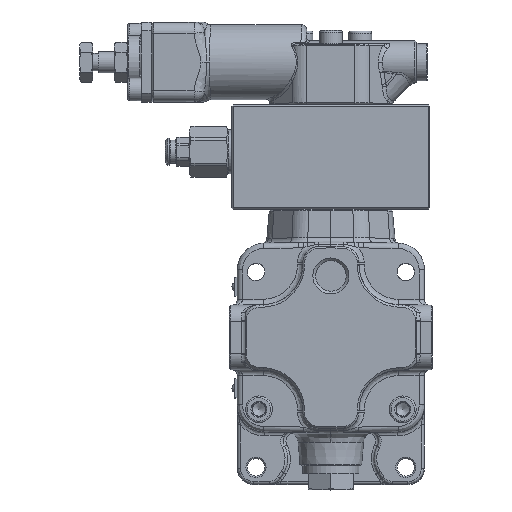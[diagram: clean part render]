
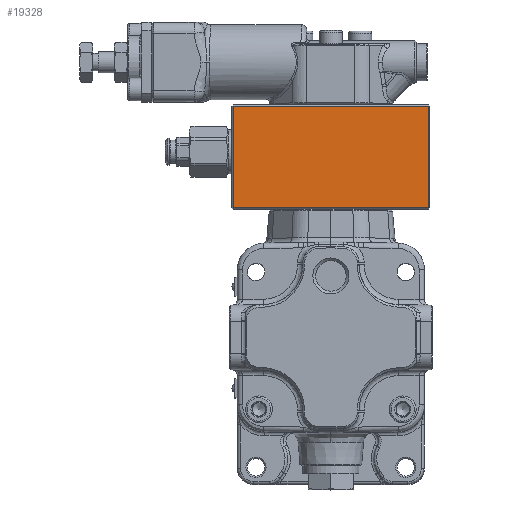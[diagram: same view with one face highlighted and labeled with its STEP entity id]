
A CAD part, top view. The second image highlights one B-rep face of the part: STEP entity #19328.
In plain terms, the highlighted planar face has unit normal (0, 0, 1).
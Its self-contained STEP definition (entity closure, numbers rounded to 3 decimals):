
#1205=FACE_OUTER_BOUND('',#2406,.T.);
#2406=EDGE_LOOP('',(#12444,#12445,#12446,#12447));
#4979=LINE('',#28661,#6243);
#4983=LINE('',#28669,#6247);
#5001=LINE('',#28701,#6265);
#5002=LINE('',#28703,#6266);
#6243=VECTOR('',#22697,10.);
#6247=VECTOR('',#22705,10.);
#6265=VECTOR('',#22737,10.);
#6266=VECTOR('',#22740,10.);
#7563=VERTEX_POINT('',#28639);
#7569=VERTEX_POINT('',#28654);
#7571=VERTEX_POINT('',#28663);
#7579=VERTEX_POINT('',#28696);
#9347=EDGE_CURVE('',#7563,#7569,#4979,.T.);
#9351=EDGE_CURVE('',#7571,#7563,#4983,.T.);
#9369=EDGE_CURVE('',#7569,#7579,#5001,.T.);
#9370=EDGE_CURVE('',#7579,#7571,#5002,.T.);
#12444=ORIENTED_EDGE('',*,*,#9347,.F.);
#12445=ORIENTED_EDGE('',*,*,#9351,.F.);
#12446=ORIENTED_EDGE('',*,*,#9370,.F.);
#12447=ORIENTED_EDGE('',*,*,#9369,.F.);
#17633=PLANE('',#20604);
#19328=ADVANCED_FACE('',(#1205),#17633,.T.);
#20604=AXIS2_PLACEMENT_3D('',#28722,#22763,#22764);
#22697=DIRECTION('',(-1.,0.,0.));
#22705=DIRECTION('',(0.,-1.,0.));
#22737=DIRECTION('',(0.,1.,0.));
#22740=DIRECTION('',(1.,0.,0.));
#22763=DIRECTION('center_axis',(0.,0.,
1.));
#22764=DIRECTION('ref_axis',(1.,0.,0.));
#28639=CARTESIAN_POINT('',(27.884,48.811,14.052));
#28654=CARTESIAN_POINT('',(-45.116,48.811,14.052));
#28661=CARTESIAN_POINT('',(-27.116,48.811,14.052));
#28663=CARTESIAN_POINT('',(27.884,86.811,14.052));
#28669=CARTESIAN_POINT('',(27.884,48.311,14.052));
#28696=CARTESIAN_POINT('',(-45.116,86.811,14.052));
#28701=CARTESIAN_POINT('',(-45.116,48.311,14.052));
#28703=CARTESIAN_POINT('',(-27.116,86.811,14.052));
#28722=CARTESIAN_POINT('Origin',(-45.616,48.311,14.052));
